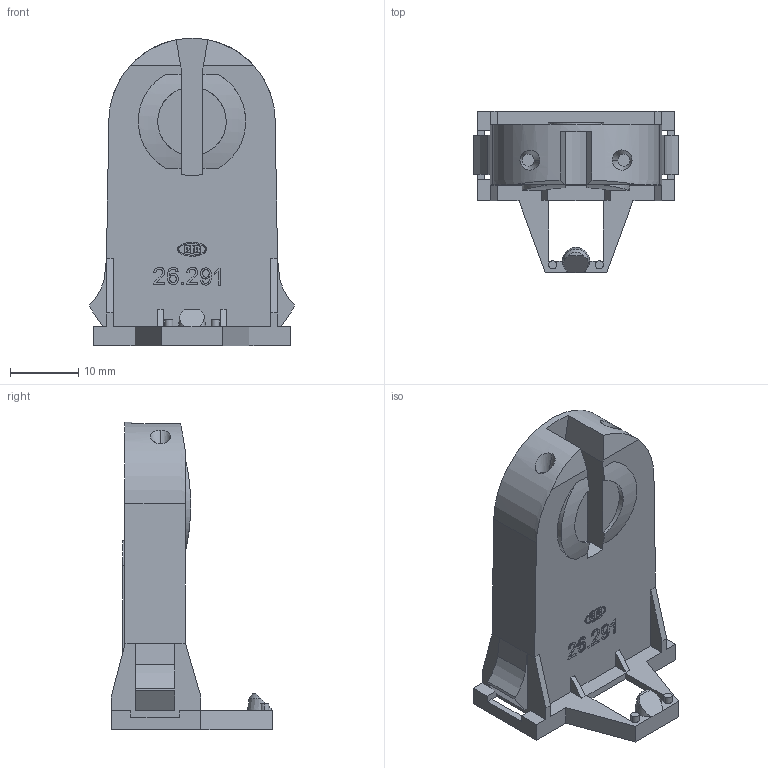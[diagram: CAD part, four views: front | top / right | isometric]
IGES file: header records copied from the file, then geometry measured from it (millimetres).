
Global section: file name: C:\CoreTechnologie\3D-in\005YM0UY06.igs; native system: CT CoreTechnologie 3D Evolution; preprocessor: 2006; date: 1180511.134343; units: millimetre
Bounding box: 30 x 23.6 x 44.95 mm (x, y, z)
Volume: 8682 mm3; surface area: 4875.4 mm2
Topology: 1 solids, 1 shells, 277 faces, 755 edges, 497 vertices
Faces by surface type: plane 171, revolution 97, bspline 9
